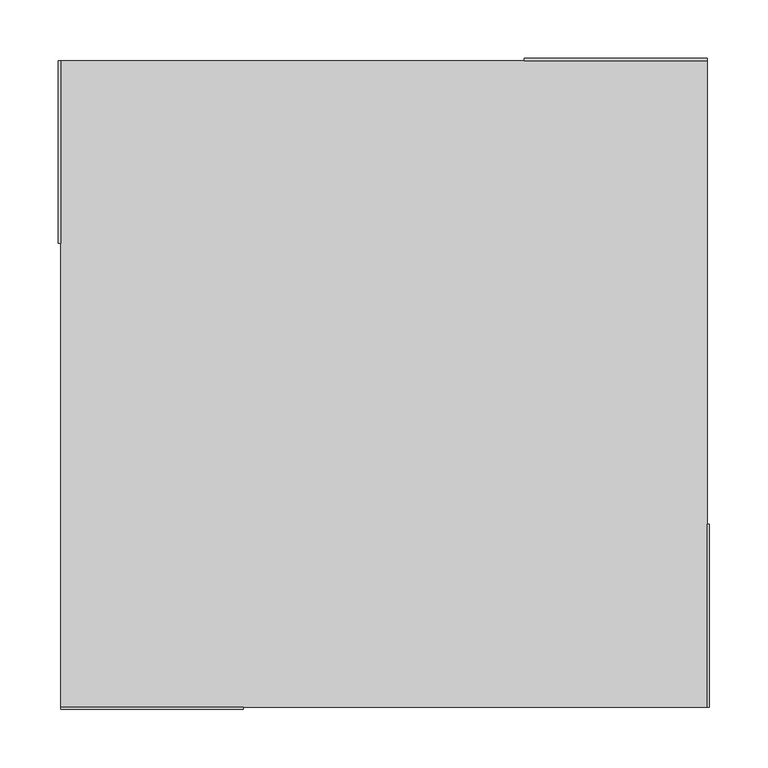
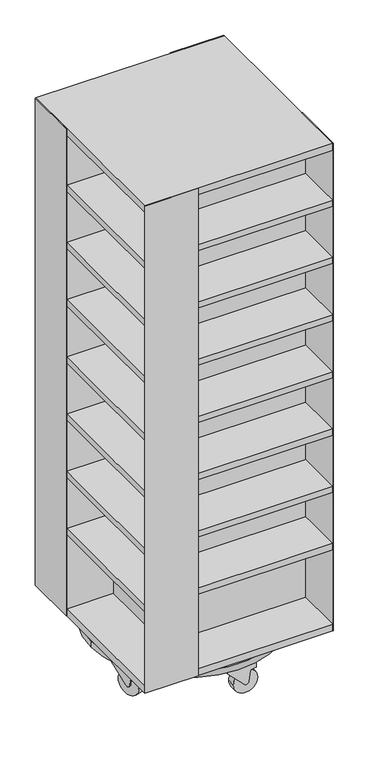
"""IFC4 building model written with IfcOpenShell, lengths in millimetres: furniture geometry, BK Library - Stina : BK Library - Stina."""

from ifc_helpers import new_model, si_unit, point, frame, frame_2d, origin, origin_2d, place, context, project, spatial, polyline, circle_curve, trimmed, segment, composite_curve, outline, extrude, source, transform, mapped, element, save


def furniture_905f3809(model_context):
    return source(origin(), model_context, "Body", "SweptSolid", [
        extrude(outline(composite_curve([segment(trimmed(circle_curve(origin_2d(), 152.516398), [point((-152.516398, 0.0))], [point((152.516398, 0.0))], False, "CARTESIAN"), True, "CONTINUOUS"), segment(trimmed(circle_curve(origin_2d(), 152.516398), [point((152.516398, 0.0))], [point((-152.516398, 0.0))], False, "CARTESIAN"), True, "CONTINUOUS")], self_intersect=False)), frame((0.0, 0.0, 116.0), z_axis=(0.0, 0.0, 1.0), x_axis=(1.0, 0.0, 0.0)), (0.0, 0.0, 1.0), 9.0),
        extrude(outline(composite_curve([segment(trimmed(circle_curve(frame_2d((228.1998061, -74.1779219)), 12.5248147), [point((224.3294255, -86.0897285))], [point((232.0701867, -62.2661152))], False, "CARTESIAN"), True, "CONTINUOUS"), segment(trimmed(circle_curve(frame_2d((228.1998061, -74.1779219)), 12.5248147), [point((232.0701867, -62.2661152))], [point((224.3294255, -86.0897285))], False, "CARTESIAN"), True, "CONTINUOUS")], self_intersect=False)), frame((0.0, 0.0, 87.7), z_axis=(0.0, 0.0, 1.0), x_axis=(1.0, 0.0, 0.0)), (0.0, 0.0, 1.0), 9.3),
        extrude(outline(composite_curve([segment(polyline([(0.0, -4.0), (-15.534626, -4.0), (-15.534626, 82.4985133), (-7.8331448, 82.4985133), (42.8326001, 31.6464633)]), True, "CONTINUOUS"), segment(trimmed(circle_curve(frame_2d((37.165374, 26.0)), 8.0), [point((42.8326001, 31.6464633))], [point((38.2375371, 18.0721714))], False, "CARTESIAN"), True, "CONTINUOUS"), segment(polyline([(38.2375371, 18.0721714), (6.2199498, 13.7420986)]), True, "CONTINUOUS"), segment(trimmed(circle_curve(frame_2d((6.4879906, 11.7601414)), 2.0), [point((6.2199498, 13.7420986))], [point((4.5183751, 12.1074378))], True, "CARTESIAN"), True, "CONTINUOUS"), segment(polyline([(4.5183751, 12.1074378), (1.9696155, -2.3472964)]), True, "CONTINUOUS"), segment(trimmed(circle_curve(frame_2d((0.0, -2.0)), 2.0), [point((1.9696155, -2.3472964))], [point((0.0, -4.0))], False, "CARTESIAN"), True, "CONTINUOUS")], self_intersect=False)), frame((262.2837087, -21.2071499, 72.665374), z_axis=(-0.9510565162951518, 0.3090169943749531, 0.0), x_axis=(0.0, 0.0, -1.0)), (0.0, 0.0, 1.0), 32.0),
        extrude(outline(composite_curve([segment(trimmed(circle_curve(frame_2d((0.0, -35.6947524)), 35.6947525), [point((0.0, -71.389505))], [point((0.0, 0.0))], False, "CARTESIAN"), True, "CONTINUOUS"), segment(trimmed(circle_curve(frame_2d((0.0, -35.6947524)), 35.6947525), [point((0.0, 0.0))], [point((0.0, -71.389505))], False, "CARTESIAN"), True, "CONTINUOUS")], self_intersect=False)), frame((239.446761, -78.5477759, 35.6872146), z_axis=(-0.9510565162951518, 0.3090169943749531, 0.0), x_axis=(0.0, 0.0, -1.0)), (0.0, 0.0, 1.0), 24.0),
        extrude(outline(composite_curve([segment(trimmed(circle_curve(frame_2d((141.0650141, 194.1086741)), 12.5248147), [point((151.1978021, 186.7467727))], [point((130.9322262, 201.4705755))], False, "CARTESIAN"), True, "CONTINUOUS"), segment(trimmed(circle_curve(frame_2d((141.0650141, 194.1086741)), 12.5248147), [point((130.9322262, 201.4705755))], [point((151.1978021, 186.7467727))], False, "CARTESIAN"), True, "CONTINUOUS")], self_intersect=False)), frame((0.0, 0.0, 87.7), z_axis=(0.0, 0.0, 1.0), x_axis=(1.0, 0.0, 0.0)), (0.0, 0.0, 1.0), 9.3),
        extrude(outline(composite_curve([segment(trimmed(circle_curve(frame_2d((0.0, -2.0)), 2.0), [point((0.0, -4.0))], [point((-1.9696155, -2.3472964))], False, "CARTESIAN"), True, "CONTINUOUS"), segment(polyline([(-1.9696155, -2.3472964), (-4.5183751, 12.1074377)]), True, "CONTINUOUS"), segment(trimmed(circle_curve(frame_2d((-6.4879906, 11.7601414)), 2.0), [point((-4.5183751, 12.1074377))], [point((-6.2199498, 13.7420985))], True, "CARTESIAN"), True, "CONTINUOUS"), segment(polyline([(-6.2199498, 13.7420985), (-38.2375371, 18.0721714)]), True, "CONTINUOUS"), segment(trimmed(circle_curve(frame_2d((-37.165374, 25.9999999)), 8.0), [point((-38.2375371, 18.0721714))], [point((-42.8326001, 31.6464633))], False, "CARTESIAN"), True, "CONTINUOUS"), segment(polyline([(-42.8326001, 31.6464633), (7.8331448, 82.4985133), (15.534626, 82.4985133), (15.534626, -4.0), (0.0, -4.0)]), True, "CONTINUOUS")], self_intersect=False)), frame((82.4101934, 217.0047167, 72.665374), z_axis=(0.5877852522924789, 0.8090169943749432, 0.0), x_axis=(0.0, 0.0, 1.0)), (0.0, 0.0, 1.0), 32.0),
        extrude(outline(composite_curve([segment(trimmed(circle_curve(frame_2d((0.0, -35.6947525)), 35.6947525), [point((0.0, -71.3895049))], [point((0.0, 0.0))], False, "CARTESIAN"), True, "CONTINUOUS"), segment(trimmed(circle_curve(frame_2d((0.0, -35.6947525)), 35.6947525), [point((0.0, 0.0))], [point((0.0, -71.3895049))], False, "CARTESIAN"), True, "CONTINUOUS")], self_intersect=False)), frame((134.5896465, 184.0383969, 35.6872146), z_axis=(0.5877852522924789, 0.8090169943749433, 0.0), x_axis=(0.0, 0.0, 1.0)), (0.0, 0.0, 1.0), 24.0),
        extrude(outline(composite_curve([segment(trimmed(circle_curve(frame_2d((-141.0168327, 194.14368)), 12.5248147), [point((-130.8840447, 201.5055814))], [point((-151.1496207, 186.7817786))], False, "CARTESIAN"), True, "CONTINUOUS"), segment(trimmed(circle_curve(frame_2d((-141.0168327, 194.14368)), 12.5248147), [point((-151.1496207, 186.7817786))], [point((-130.8840447, 201.5055814))], False, "CARTESIAN"), True, "CONTINUOUS")], self_intersect=False)), frame((0.0, 0.0, 87.7), z_axis=(0.0, 0.0, 1.0), x_axis=(1.0, 0.0, 0.0)), (0.0, 0.0, 1.0), 9.3),
        extrude(outline(composite_curve([segment(trimmed(circle_curve(frame_2d((0.0, -1.9999999)), 2.0), [point((0.0, -3.9999999))], [point((-1.9696155, -2.3472963))], False, "CARTESIAN"), True, "CONTINUOUS"), segment(polyline([(-1.9696155, -2.3472963), (-4.5183751, 12.1074379)]), True, "CONTINUOUS"), segment(trimmed(circle_curve(frame_2d((-6.4879906, 11.7601415)), 2.0), [point((-4.5183751, 12.1074379))], [point((-6.2199498, 13.7420986))], True, "CARTESIAN"), True, "CONTINUOUS"), segment(polyline([(-6.2199498, 13.7420986), (-38.2375371, 18.0721715)]), True, "CONTINUOUS"), segment(trimmed(circle_curve(frame_2d((-37.165374, 26.0000001)), 8.0), [point((-38.2375371, 18.0721715))], [point((-42.8326001, 31.6464634))], False, "CARTESIAN"), True, "CONTINUOUS"), segment(polyline([(-42.8326001, 31.6464634), (7.8331448, 82.4985134), (15.534626, 82.4985134), (15.534626, -3.9999999), (0.0, -3.9999999)]), True, "CONTINUOUS")], self_intersect=False)), frame((-180.9175997, 145.4348967, 72.665374), z_axis=(-0.5877852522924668, 0.8090169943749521, 0.0), x_axis=(0.0, 0.0, 1.0)), (0.0, 0.0, 1.0), 32.0),
        extrude(outline(composite_curve([segment(trimmed(circle_curve(frame_2d((0.0, -35.6947524)), 35.6947525), [point((0.0, -71.3895049))], [point((0.0, 0.0))], False, "CARTESIAN"), True, "CONTINUOUS"), segment(trimmed(circle_curve(frame_2d((0.0, -35.6947524)), 35.6947525), [point((0.0, 0.0))], [point((0.0, -71.3895049))], False, "CARTESIAN"), True, "CONTINUOUS")], self_intersect=False)), frame((-133.4404286, 184.8733526, 35.6872146), z_axis=(-0.5877852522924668, 0.8090169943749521, 0.0), x_axis=(0.0, 0.0, 1.0)), (0.0, 0.0, 1.0), 24.0),
        extrude(outline(composite_curve([segment(trimmed(circle_curve(frame_2d((-228.2182097, -74.1212812)), 12.5248147), [point((-232.0885903, -62.2094745))], [point((-224.3478291, -86.0330878))], False, "CARTESIAN"), True, "CONTINUOUS"), segment(trimmed(circle_curve(frame_2d((-228.2182097, -74.1212812)), 12.5248147), [point((-224.3478291, -86.0330878))], [point((-232.0885903, -62.2094745))], False, "CARTESIAN"), True, "CONTINUOUS")], self_intersect=False)), frame((0.0, 0.0, 87.7), z_axis=(0.0, 0.0, 1.0), x_axis=(1.0, 0.0, 0.0)), (0.0, 0.0, 1.0), 9.3),
        extrude(outline(composite_curve([segment(polyline([(0.0, -4.0), (-15.534626, -4.0), (-15.534626, 82.4985134), (-7.8331448, 82.4985134), (42.8326001, 31.6464633)]), True, "CONTINUOUS"), segment(trimmed(circle_curve(frame_2d((37.165374, 26.0)), 8.0), [point((42.8326001, 31.6464633))], [point((38.2375371, 18.0721714))], False, "CARTESIAN"), True, "CONTINUOUS"), segment(polyline([(38.2375371, 18.0721714), (6.2199498, 13.7420986)]), True, "CONTINUOUS"), segment(trimmed(circle_curve(frame_2d((6.4879906, 11.7601414)), 2.0), [point((6.2199498, 13.7420986))], [point((4.5183751, 12.1074378))], True, "CARTESIAN"), True, "CONTINUOUS"), segment(polyline([(4.5183751, 12.1074378), (1.9696155, -2.3472963)]), True, "CONTINUOUS"), segment(trimmed(circle_curve(frame_2d((0.0, -1.9999999)), 2.0), [point((1.9696155, -2.3472963))], [point((0.0, -4.0))], False, "CARTESIAN"), True, "CONTINUOUS")], self_intersect=False)), frame((-224.6572276, -137.0095512, 72.665374), z_axis=(0.9510565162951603, 0.3090169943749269, 0.0), x_axis=(0.0, 0.0, -1.0)), (0.0, 0.0, 1.0), 32.0),
        extrude(outline(composite_curve([segment(trimmed(circle_curve(frame_2d((0.0, -35.6947524)), 35.6947525), [point((0.0, -71.3895049))], [point((0.0, 0.0))], False, "CARTESIAN"), True, "CONTINUOUS"), segment(trimmed(circle_curve(frame_2d((0.0, -35.6947524)), 35.6947525), [point((0.0, 0.0))], [point((0.0, -71.3895049))], False, "CARTESIAN"), True, "CONTINUOUS")], self_intersect=False)), frame((-239.8857232, -77.1967893, 35.6872146), z_axis=(0.9510565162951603, 0.30901699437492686, 0.0), x_axis=(0.0, 0.0, -1.0)), (0.0, 0.0, 1.0), 24.0),
        extrude(outline(composite_curve([segment(trimmed(circle_curve(origin_2d(), 275.0), [point((-275.0, 0.0))], [point((275.0, 0.0))], False, "CARTESIAN"), True, "CONTINUOUS"), segment(trimmed(circle_curve(origin_2d(), 275.0), [point((275.0, 0.0))], [point((-275.0, 0.0))], False, "CARTESIAN"), True, "CONTINUOUS")], self_intersect=False)), frame((0.0, 0.0, 97.0075378), z_axis=(0.0, 0.0, 1.0), x_axis=(1.0, 0.0, 0.0)), (0.0, 0.0, 1.0), 18.9924622),
        extrude(outline(polyline([(-279.5, 120.5), (-279.5, 277.5), (-277.5, 277.5), (-277.5, 120.5), (-279.5, 120.5)])), frame((0.0, 0.0, 123.0), z_axis=(0.0, 0.0, 1.0), x_axis=(1.0, 0.0, 0.0)), (0.0, 0.0, 1.0), 1520.0),
        extrude(outline(polyline([(120.5, 279.5), (277.5, 279.5), (277.5, 277.5), (120.5, 277.5), (120.5, 279.5)])), frame((0.0, 0.0, 123.0), z_axis=(0.0, 0.0, 1.0), x_axis=(1.0, 0.0, 0.0)), (0.0, 0.0, 1.0), 1520.0),
        extrude(outline(polyline([(279.5, -120.5), (279.5, -277.5), (277.5, -277.5), (277.5, -120.5), (279.5, -120.5)])), frame((0.0, 0.0, 123.0), z_axis=(0.0, 0.0, 1.0), x_axis=(1.0, 0.0, 0.0)), (0.0, 0.0, 1.0), 1520.0),
        extrude(outline(polyline([(-120.5, -279.5), (-277.5, -279.5), (-277.5, -277.5), (-120.5, -277.5), (-120.5, -279.5)])), frame((0.0, 0.0, 123.0), z_axis=(0.0, 0.0, 1.0), x_axis=(1.0, 0.0, 0.0)), (0.0, 0.0, 1.0), 1520.0),
        extrude(outline(polyline([(-275.5, 139.5), (120.5, 139.5), (120.5, 275.5), (139.5, 275.5), (139.5, -120.5), (275.5, -120.5), (275.5, -139.5), (-120.5, -139.5), (-120.5, -275.5), (-139.5, -275.5), (-139.5, 120.5), (-275.5, 120.5), (-275.5, 139.5)])), frame((0.0, 0.0, 144.0), z_axis=(0.0, 0.0, 1.0), x_axis=(1.0, 0.0, 0.0)), (0.0, 0.0, 1.0), 1478.0),
        extrude(outline(composite_curve([segment(trimmed(circle_curve(frame_2d((-0.0297778, -239.953151)), 12.5248147), [point((-12.5545925, -239.953151))], [point((12.4950369, -239.953151))], False, "CARTESIAN"), True, "CONTINUOUS"), segment(trimmed(circle_curve(frame_2d((-0.0297778, -239.953151)), 12.5248147), [point((12.4950369, -239.953151))], [point((-12.5545925, -239.953151))], False, "CARTESIAN"), True, "CONTINUOUS")], self_intersect=False)), frame((0.0, 0.0, 87.7), z_axis=(0.0, 0.0, 1.0), x_axis=(1.0, 0.0, 0.0)), (0.0, 0.0, 1.0), 9.3),
        extrude(outline(composite_curve([segment(polyline([(72.665374, 64.8809252), (88.2, 64.8809252), (88.2, -21.6175881), (80.4985188, -21.6175881), (29.8327739, 29.2344619)]), True, "CONTINUOUS"), segment(trimmed(circle_curve(frame_2d((35.5, 34.8809252)), 8.0), [point((29.8327739, 29.2344619))], [point((34.4278369, 42.8087538))], False, "CARTESIAN"), True, "CONTINUOUS"), segment(polyline([(34.4278369, 42.8087538), (66.4454242, 47.1388267)]), True, "CONTINUOUS"), segment(trimmed(circle_curve(frame_2d((66.1773834, 49.1207838)), 2.0), [point((66.4454242, 47.1388267))], [point((68.1469989, 48.7734874))], True, "CARTESIAN"), True, "CONTINUOUS"), segment(polyline([(68.1469989, 48.7734874), (70.6957585, 63.2282216)]), True, "CONTINUOUS"), segment(trimmed(circle_curve(frame_2d((72.665374, 62.8809252)), 2.0), [point((70.6957585, 63.2282216))], [point((72.665374, 64.8809252))], False, "CARTESIAN"), True, "CONTINUOUS")], self_intersect=False)), frame((0.0, -256.0, 0.0), z_axis=(0.0, 1.0, 0.0), x_axis=(0.0, 0.0, 1.0)), (0.0, 0.0, 1.0), 32.0),
        extrude(outline(composite_curve([segment(trimmed(circle_curve(frame_2d((35.6872146, 34.9844968)), 35.6947525), [point((35.6872146, 70.6792492))], [point((35.6872146, -0.7102557))], False, "CARTESIAN"), True, "CONTINUOUS"), segment(trimmed(circle_curve(frame_2d((35.6872146, 34.9844968)), 35.6947525), [point((35.6872146, -0.7102557))], [point((35.6872146, 70.6792492))], False, "CARTESIAN"), True, "CONTINUOUS")], self_intersect=False)), frame((0.0, -252.0, 0.0), z_axis=(0.0, 1.0, 0.0), x_axis=(0.0, 0.0, 1.0)), (0.0, 0.0, 1.0), 24.0),
        extrude(outline(polyline([(277.5, 277.5), (277.5, -277.5), (-277.5, -277.5), (-277.5, 277.5), (277.5, 277.5)])), frame((0.0, 0.0, 911.7714081), z_axis=(0.0, 0.0, 1.0), x_axis=(1.0, 0.0, 0.0)), (0.0, 0.0, 1.0), 19.0),
        extrude(outline(polyline([(277.5, 277.5), (277.5, -277.5), (-277.5, -277.5), (-277.5, 277.5), (277.5, 277.5)])), frame((0.0, 0.0, 733.2714081), z_axis=(0.0, 0.0, 1.0), x_axis=(1.0, 0.0, 0.0)), (0.0, 0.0, 1.0), 19.0),
        extrude(outline(polyline([(277.5, 277.5), (277.5, -277.5), (-277.5, -277.5), (-277.5, 277.5), (277.5, 277.5)])), frame((0.0, 0.0, 376.2714081), z_axis=(0.0, 0.0, 1.0), x_axis=(1.0, 0.0, 0.0)), (0.0, 0.0, 1.0), 19.0),
        extrude(outline(polyline([(277.5, 277.5), (277.5, -277.5), (-277.5, -277.5), (-277.5, 277.5), (277.5, 277.5)])), frame((0.0, 0.0, 123.0), z_axis=(0.0, 0.0, 1.0), x_axis=(1.0, 0.0, 0.0)), (0.0, 0.0, 1.0), 21.0),
        extrude(outline(polyline([(277.5, 277.5), (277.5, -277.5), (-277.5, -277.5), (-277.5, 277.5), (277.5, 277.5)])), frame((0.0, 0.0, 1622.0), z_axis=(0.0, 0.0, 1.0), x_axis=(1.0, 0.0, 0.0)), (0.0, 0.0, 1.0), 21.0),
        extrude(outline(polyline([(277.5, 277.5), (277.5, -277.5), (-277.5, -277.5), (-277.5, 277.5), (277.5, 277.5)])), frame((0.0, 0.0, 554.7714081), z_axis=(0.0, 0.0, 1.0), x_axis=(1.0, 0.0, 0.0)), (0.0, 0.0, 1.0), 19.0),
        extrude(outline(polyline([(277.5, 277.5), (277.5, -277.5), (-277.5, -277.5), (-277.5, 277.5), (277.5, 277.5)])), frame((0.0, 0.0, 1090.2714081), z_axis=(0.0, 0.0, 1.0), x_axis=(1.0, 0.0, 0.0)), (0.0, 0.0, 1.0), 19.0),
        extrude(outline(polyline([(277.5, 277.5), (277.5, -277.5), (-277.5, -277.5), (-277.5, 277.5), (277.5, 277.5)])), frame((0.0, 0.0, 1268.7714081), z_axis=(0.0, 0.0, 1.0), x_axis=(1.0, 0.0, 0.0)), (0.0, 0.0, 1.0), 19.0),
        extrude(outline(polyline([(277.5, 277.5), (277.5, -277.5), (-277.5, -277.5), (-277.5, 277.5), (277.5, 277.5)])), frame((0.0, 0.0, 1447.2714081), z_axis=(0.0, 0.0, 1.0), x_axis=(1.0, 0.0, 0.0)), (0.0, 0.0, 1.0), 19.0),
    ])


if __name__ == "__main__":
    model = new_model("IFC4")
    model_context = context("Model", 3, world=origin())
    ifc_project = project(units=[si_unit("LENGTHUNIT", "METRE", prefix="MILLI")], contexts=[model_context])
    site = spatial("IfcSite", under=ifc_project)
    building = spatial("IfcBuilding", under=site)
    placement = place(None, origin())
    furniture_shape = furniture_905f3809(model_context)
    element("IfcFurniture", 1, ObjectType="BK Library - Stina : BK Library - Stina", at=placement, inside=building, context=model_context, shape_type="MappedRepresentation", body=[
        mapped(furniture_shape, transform((0.0, 0.0, 0.0), x_axis=(1.0, 0.0, 0.0), y_axis=(0.0, 1.0, 0.0), z_axis=(0.0, 0.0, 1.0))),
    ])
    save(model, "model.ifc")
